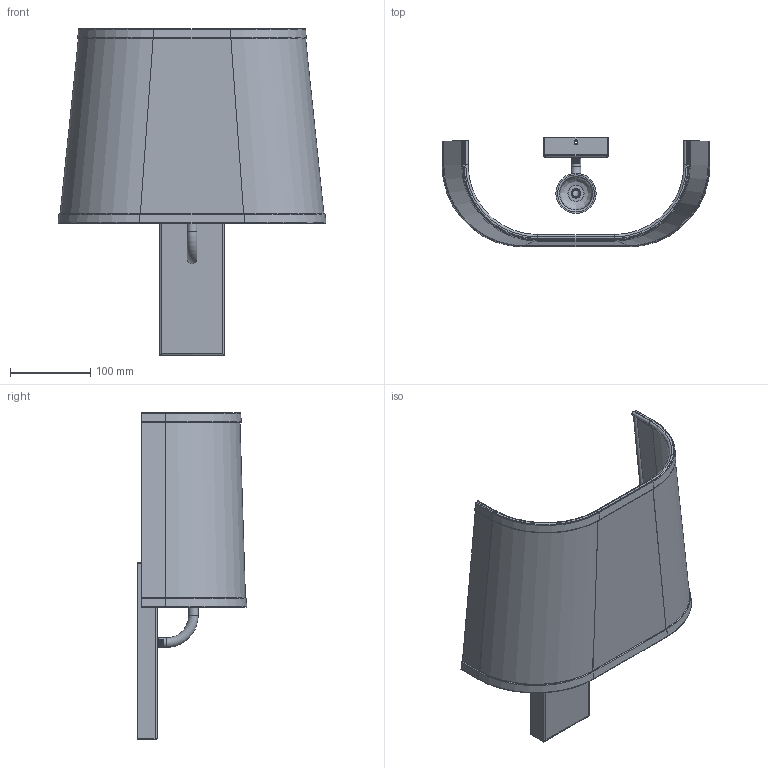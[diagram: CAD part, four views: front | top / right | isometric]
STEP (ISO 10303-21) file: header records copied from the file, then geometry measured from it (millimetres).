
FILE_DESCRIPTION( ( 'STEP AP203' ), '1' );
FILE_NAME( '//srvbf/BF Disegni/EVITA/EVITA-A Applique 3D.stp', '2020-10-16T15:18:56', ( ' ' ), ( ' ' ), 'XStep 1.0', ' ', ' ' );
FILE_SCHEMA( ( 'CONFIG_CONTROL_DESIGN) ( )' ) );
Length unit declared in the file: metre
Products named in the file (12): Assem1; 1; 2; 3; 4; 5; 6; 7; 8; 9; 10; 11
Bounding box: 332.99 x 136.5 x 406 mm (x, y, z)
Volume: 413548.6 mm3; surface area: 774854.1 mm2
Topology: 22 solids, 22 shells, 494 faces, 1160 edges, 720 vertices
Faces by surface type: cylinder 184, plane 178, cone 72, torus 48, bspline 12
Full cylindrical faces by diameter (mm): 3.5 x4, 4 x16, 8 x4, 9 x32, 10 x4, 11 x2, 12 x4, 41 x2, 42 x2, 50 x2
Entity records: 7294 total; most frequent: DIRECTION 1244, CARTESIAN_POINT 1227, ORIENTED_EDGE 992, EDGE_CURVE 496, AXIS2_PLACEMENT_3D 495, EDGE_LOOP 350, VERTEX_POINT 350, FACE_OUTER_BOUND 293
